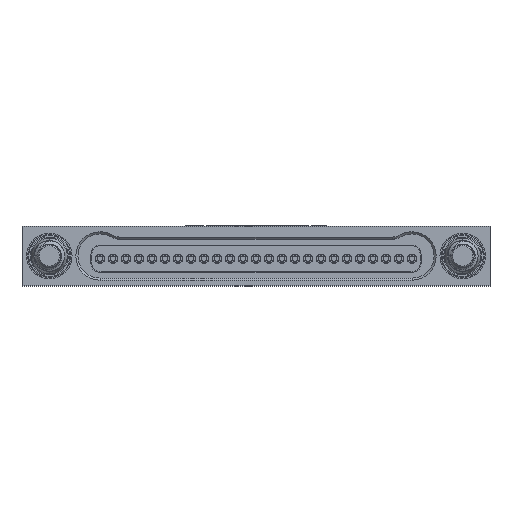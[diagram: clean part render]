
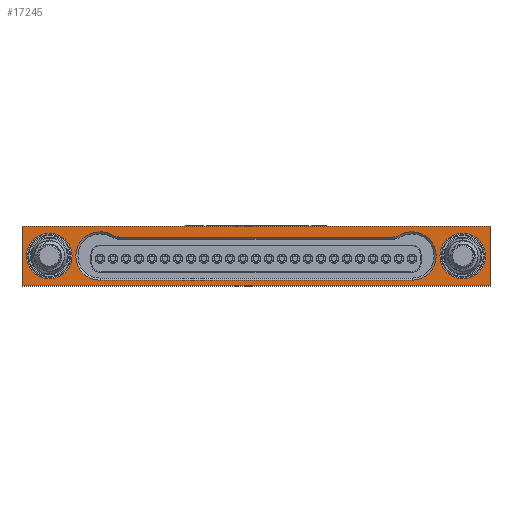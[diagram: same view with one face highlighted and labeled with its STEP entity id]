
A CAD part, top view. The second image highlights one B-rep face of the part: STEP entity #17245.
In plain terms, the highlighted planar face has unit normal (0, 0, 1).
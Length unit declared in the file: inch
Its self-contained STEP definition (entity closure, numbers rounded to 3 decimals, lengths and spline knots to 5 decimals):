
#40 = VERTEX_POINT ( 'NONE', #14571 ) ;
#174 = CARTESIAN_POINT ( 'NONE',  ( 0.45, 0.0625, 0.225 ) ) ;
#304 = CARTESIAN_POINT ( 'NONE',  ( -0.3, 0.005, 0.225 ) ) ;
#433 = CARTESIAN_POINT ( 'NONE',  ( 0.3, 0.005, 0.225 ) ) ;
#754 = ORIENTED_EDGE ( 'NONE', *, *, #31234, .T. ) ;
#771 = DIRECTION ( 'NONE',  ( 0., 0., 1. ) ) ;
#1020 = CARTESIAN_POINT ( 'NONE',  ( -0.45, -0.0525, 0.225 ) ) ;
#1170 = DIRECTION ( 'NONE',  ( 0., 1., 0. ) ) ;
#1472 = EDGE_LOOP ( 'NONE', ( #3218, #19135, #7015, #28507 ) ) ;
#1737 = CIRCLE ( 'NONE', #28856, 0.0305 ) ;
#1846 = VERTEX_POINT ( 'NONE', #30975 ) ;
#2069 = VERTEX_POINT ( 'NONE', #27692 ) ;
#2243 = DIRECTION ( 'NONE',  ( 0., -1., 0. ) ) ;
#2710 = EDGE_CURVE ( 'NONE', #30878, #19392, #1737, .T. ) ;
#2874 = DIRECTION ( 'NONE',  ( 0., 0., 1. ) ) ;
#2882 = DIRECTION ( 'NONE',  ( 0., 0., -1. ) ) ;
#2902 = EDGE_CURVE ( 'NONE', #15517, #25511, #30138, .T. ) ;
#2920 = VECTOR ( 'NONE', #28748, 39.37008 ) ;
#2988 = EDGE_CURVE ( 'NONE', #40, #6591, #20083, .T. ) ;
#3191 = EDGE_CURVE ( 'NONE', #25511, #5636, #23556, .T. ) ;
#3218 = ORIENTED_EDGE ( 'NONE', *, *, #30595, .T. ) ;
#3714 = AXIS2_PLACEMENT_3D ( 'NONE', #8554, #24121, #13435 ) ;
#3787 = CARTESIAN_POINT ( 'NONE',  ( 0.3, 0.0515, 0.225 ) ) ;
#3942 = VERTEX_POINT ( 'NONE', #15128 ) ;
#3979 = VERTEX_POINT ( 'NONE', #29017 ) ;
#4123 = VERTEX_POINT ( 'NONE', #28038 ) ;
#4537 = FACE_OUTER_BOUND ( 'NONE', #1472, .T. ) ;
#4561 = DIRECTION ( 'NONE',  ( -1., 0., 0. ) ) ;
#4775 = AXIS2_PLACEMENT_3D ( 'NONE', #26433, #2874, #18979 ) ;
#5636 = VERTEX_POINT ( 'NONE', #16419 ) ;
#5668 = DIRECTION ( 'NONE',  ( 0., 0., -1. ) ) ;
#5915 = EDGE_LOOP ( 'NONE', ( #28931, #20537, #13469, #6540, #20246, #754, #14831, #15244 ) ) ;
#6540 = ORIENTED_EDGE ( 'NONE', *, *, #10604, .T. ) ;
#6591 = VERTEX_POINT ( 'NONE', #15310 ) ;
#6634 = CARTESIAN_POINT ( 'NONE',  ( 0.3, 0.005, 0.225 ) ) ;
#6652 = CARTESIAN_POINT ( 'NONE',  ( -0.3975, 0.005, 0.225 ) ) ;
#6759 = CARTESIAN_POINT ( 'NONE',  ( 0.26205, 0.072, 0.225 ) ) ;
#6938 = AXIS2_PLACEMENT_3D ( 'NONE', #6634, #5668, #24000 ) ;
#7007 = VERTEX_POINT ( 'NONE', #14660 ) ;
#7015 = ORIENTED_EDGE ( 'NONE', *, *, #28686, .T. ) ;
#7843 = CARTESIAN_POINT ( 'NONE',  ( -0.27708, 0.04546, 0.225 ) ) ;
#7957 = VECTOR ( 'NONE', #21084, 39.37008 ) ;
#8060 = DIRECTION ( 'NONE',  ( -1., 0., 0. ) ) ;
#8336 = ORIENTED_EDGE ( 'NONE', *, *, #2988, .F. ) ;
#8554 = CARTESIAN_POINT ( 'NONE',  ( -0.3, 0.005, 0.225 ) ) ;
#8954 = DIRECTION ( 'NONE',  ( 0., 0., 1. ) ) ;
#9360 = CARTESIAN_POINT ( 'NONE',  ( 0.45, -0.0415, 0.225 ) ) ;
#9609 = CARTESIAN_POINT ( 'NONE',  ( 0.3975, 0.04875, 0.225 ) ) ;
#9687 = DIRECTION ( 'NONE',  ( 0., 0., -1. ) ) ;
#9755 = CIRCLE ( 'NONE', #4775, 0.04375 ) ;
#9955 = DIRECTION ( 'NONE',  ( 1., 0., 0. ) ) ;
#10604 = EDGE_CURVE ( 'NONE', #19392, #3979, #14771, .T. ) ;
#11368 = VECTOR ( 'NONE', #8060, 39.37008 ) ;
#11372 = VERTEX_POINT ( 'NONE', #9609 ) ;
#11503 = CARTESIAN_POINT ( 'NONE',  ( -0.3, 0.0515, 0.225 ) ) ;
#11548 = DIRECTION ( 'NONE',  ( 0., 0., 1. ) ) ;
#11600 = CIRCLE ( 'NONE', #6938, 0.0465 ) ;
#12063 = DIRECTION ( 'NONE',  ( 0., 0., 1. ) ) ;
#12106 = DIRECTION ( 'NONE',  ( 0., -1., 0. ) ) ;
#12948 = VERTEX_POINT ( 'NONE', #1020 ) ;
#13435 = DIRECTION ( 'NONE',  ( 0., -1., 0. ) ) ;
#13469 = ORIENTED_EDGE ( 'NONE', *, *, #2710, .T. ) ;
#14571 = CARTESIAN_POINT ( 'NONE',  ( -0.3975, 0.04875, 0.225 ) ) ;
#14654 = DIRECTION ( 'NONE',  ( 0., 0., -1. ) ) ;
#14660 = CARTESIAN_POINT ( 'NONE',  ( -0.45, 0.0625, 0.225 ) ) ;
#14771 = LINE ( 'NONE', #22408, #2920 ) ;
#14831 = ORIENTED_EDGE ( 'NONE', *, *, #2902, .T. ) ;
#15128 = CARTESIAN_POINT ( 'NONE',  ( 0.45, 0.0625, 0.225 ) ) ;
#15234 = LINE ( 'NONE', #19245, #7957 ) ;
#15244 = ORIENTED_EDGE ( 'NONE', *, *, #3191, .T. ) ;
#15310 = CARTESIAN_POINT ( 'NONE',  ( -0.3975, -0.03875, 0.225 ) ) ;
#15517 = VERTEX_POINT ( 'NONE', #3787 ) ;
#15770 = AXIS2_PLACEMENT_3D ( 'NONE', #6652, #11548, #28696 ) ;
#15853 = FACE_BOUND ( 'NONE', #20722, .T. ) ;
#16407 = AXIS2_PLACEMENT_3D ( 'NONE', #27990, #9687, #12106 ) ;
#16419 = CARTESIAN_POINT ( 'NONE',  ( -0.3, -0.0415, 0.225 ) ) ;
#16557 = FACE_BOUND ( 'NONE', #5915, .T. ) ;
#17245 = ADVANCED_FACE ( 'NONE', ( #23049, #15853, #16557, #4537 ), #27319, .F. ) ;
#17544 = DIRECTION ( 'NONE',  ( 0., -1., 0. ) ) ;
#18979 = DIRECTION ( 'NONE',  ( 0., 1., 0. ) ) ;
#19004 = AXIS2_PLACEMENT_3D ( 'NONE', #433, #2882, #17544 ) ;
#19135 = ORIENTED_EDGE ( 'NONE', *, *, #22956, .T. ) ;
#19245 = CARTESIAN_POINT ( 'NONE',  ( -0.45, 0.0625, 0.225 ) ) ;
#19355 = VECTOR ( 'NONE', #4561, 39.37008 ) ;
#19392 = VERTEX_POINT ( 'NONE', #20805 ) ;
#20083 = CIRCLE ( 'NONE', #15770, 0.04375 ) ;
#20102 = LINE ( 'NONE', #21198, #29699 ) ;
#20246 = ORIENTED_EDGE ( 'NONE', *, *, #25217, .T. ) ;
#20254 = EDGE_CURVE ( 'NONE', #5636, #24880, #27150, .T. ) ;
#20303 = CARTESIAN_POINT ( 'NONE',  ( 0.3, -0.0415, 0.225 ) ) ;
#20342 = DIRECTION ( 'NONE',  ( 0., -1., 0. ) ) ;
#20537 = ORIENTED_EDGE ( 'NONE', *, *, #27148, .T. ) ;
#20722 = EDGE_LOOP ( 'NONE', ( #8336, #27994 ) ) ;
#20741 = ORIENTED_EDGE ( 'NONE', *, *, #30324, .F. ) ;
#20805 = CARTESIAN_POINT ( 'NONE',  ( -0.26205, 0.0415, 0.225 ) ) ;
#21084 = DIRECTION ( 'NONE',  ( 0., -1., 0. ) ) ;
#21198 = CARTESIAN_POINT ( 'NONE',  ( 0.45, -0.0525, 0.225 ) ) ;
#21367 = LINE ( 'NONE', #174, #11368 ) ;
#22408 = CARTESIAN_POINT ( 'NONE',  ( 0.45, 0.0415, 0.225 ) ) ;
#22425 = CIRCLE ( 'NONE', #31324, 0.04375 ) ;
#22562 = CARTESIAN_POINT ( 'NONE',  ( -0.3975, 0.005, 0.225 ) ) ;
#22865 = DIRECTION ( 'NONE',  ( 0., 1., 0. ) ) ;
#22956 = EDGE_CURVE ( 'NONE', #3942, #7007, #21367, .T. ) ;
#23049 = FACE_BOUND ( 'NONE', #27555, .T. ) ;
#23170 = AXIS2_PLACEMENT_3D ( 'NONE', #22562, #8954, #22865 ) ;
#23556 = LINE ( 'NONE', #9360, #19355 ) ;
#24000 = DIRECTION ( 'NONE',  ( 0., -1., 0. ) ) ;
#24121 = DIRECTION ( 'NONE',  ( 0., 0., -1. ) ) ;
#24485 = CIRCLE ( 'NONE', #27576, 0.0305 ) ;
#24880 = VERTEX_POINT ( 'NONE', #11503 ) ;
#25217 = EDGE_CURVE ( 'NONE', #3979, #4123, #24485, .T. ) ;
#25511 = VERTEX_POINT ( 'NONE', #20303 ) ;
#26238 = DIRECTION ( 'NONE',  ( 0., 1., 0. ) ) ;
#26433 = CARTESIAN_POINT ( 'NONE',  ( 0.3975, 0.005, 0.225 ) ) ;
#26585 = VECTOR ( 'NONE', #1170, 39.37008 ) ;
#26894 = CIRCLE ( 'NONE', #3714, 0.0465 ) ;
#27148 = EDGE_CURVE ( 'NONE', #24880, #30878, #26894, .T. ) ;
#27150 = CIRCLE ( 'NONE', #27696, 0.0465 ) ;
#27319 = PLANE ( 'NONE',  #16407 ) ;
#27555 = EDGE_LOOP ( 'NONE', ( #31468, #20741 ) ) ;
#27576 = AXIS2_PLACEMENT_3D ( 'NONE', #6759, #27984, #20342 ) ;
#27692 = CARTESIAN_POINT ( 'NONE',  ( 0.3975, -0.03875, 0.225 ) ) ;
#27696 = AXIS2_PLACEMENT_3D ( 'NONE', #304, #14654, #31198 ) ;
#27984 = DIRECTION ( 'NONE',  ( 0., 0., 1. ) ) ;
#27990 = CARTESIAN_POINT ( 'NONE',  ( 0.45, 0.0625, 0.225 ) ) ;
#27994 = ORIENTED_EDGE ( 'NONE', *, *, #28811, .F. ) ;
#28038 = CARTESIAN_POINT ( 'NONE',  ( 0.27708, 0.04546, 0.225 ) ) ;
#28507 = ORIENTED_EDGE ( 'NONE', *, *, #30141, .T. ) ;
#28686 = EDGE_CURVE ( 'NONE', #7007, #12948, #15234, .T. ) ;
#28696 = DIRECTION ( 'NONE',  ( 0., 1., 0. ) ) ;
#28748 = DIRECTION ( 'NONE',  ( 1., 0., 0. ) ) ;
#28811 = EDGE_CURVE ( 'NONE', #6591, #40, #30139, .T. ) ;
#28856 = AXIS2_PLACEMENT_3D ( 'NONE', #30124, #771, #2243 ) ;
#28931 = ORIENTED_EDGE ( 'NONE', *, *, #20254, .T. ) ;
#29017 = CARTESIAN_POINT ( 'NONE',  ( 0.26205, 0.0415, 0.225 ) ) ;
#29699 = VECTOR ( 'NONE', #9955, 39.37008 ) ;
#30034 = LINE ( 'NONE', #30417, #26585 ) ;
#30124 = CARTESIAN_POINT ( 'NONE',  ( -0.26205, 0.072, 0.225 ) ) ;
#30138 = CIRCLE ( 'NONE', #19004, 0.0465 ) ;
#30139 = CIRCLE ( 'NONE', #23170, 0.04375 ) ;
#30141 = EDGE_CURVE ( 'NONE', #12948, #1846, #20102, .T. ) ;
#30164 = EDGE_CURVE ( 'NONE', #11372, #2069, #22425, .T. ) ;
#30324 = EDGE_CURVE ( 'NONE', #2069, #11372, #9755, .T. ) ;
#30417 = CARTESIAN_POINT ( 'NONE',  ( 0.45, 0.0625, 0.225 ) ) ;
#30595 = EDGE_CURVE ( 'NONE', #1846, #3942, #30034, .T. ) ;
#30874 = CARTESIAN_POINT ( 'NONE',  ( 0.3975, 0.005, 0.225 ) ) ;
#30878 = VERTEX_POINT ( 'NONE', #7843 ) ;
#30975 = CARTESIAN_POINT ( 'NONE',  ( 0.45, -0.0525, 0.225 ) ) ;
#31198 = DIRECTION ( 'NONE',  ( 0., -1., 0. ) ) ;
#31234 = EDGE_CURVE ( 'NONE', #4123, #15517, #11600, .T. ) ;
#31324 = AXIS2_PLACEMENT_3D ( 'NONE', #30874, #12063, #26238 ) ;
#31468 = ORIENTED_EDGE ( 'NONE', *, *, #30164, .F. ) ;
